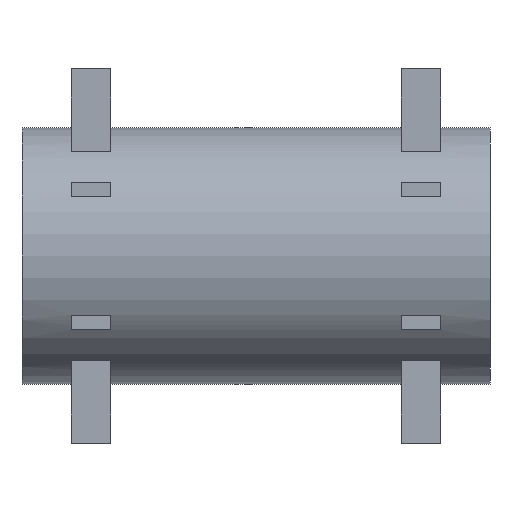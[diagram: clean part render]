
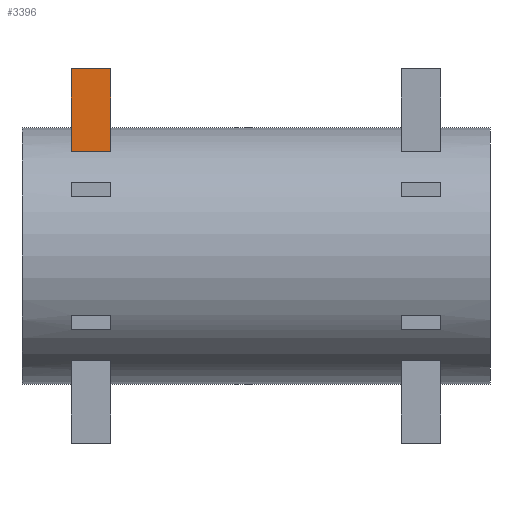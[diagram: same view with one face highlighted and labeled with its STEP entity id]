
A CAD part, front view. The second image highlights one B-rep face of the part: STEP entity #3396.
In plain terms, the highlighted planar face has unit normal (0, -1, 0).
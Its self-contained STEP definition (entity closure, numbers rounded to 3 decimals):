
#31 = CYLINDRICAL_SURFACE('',#32,26.);
#32 = AXIS2_PLACEMENT_3D('',#33,#34,#35);
#33 = CARTESIAN_POINT('',(295.,0.,0.));
#34 = DIRECTION('',(1.,0.,0.));
#35 = DIRECTION('',(-0.,0.,1.));
#111 = VERTEX_POINT('',#112);
#112 = CARTESIAN_POINT('',(305.,-15.,21.237));
#127 = PLANE('',#128);
#128 = AXIS2_PLACEMENT_3D('',#129,#130,#131);
#129 = CARTESIAN_POINT('',(305.,-15.,20.));
#130 = DIRECTION('',(1.,0.,0.));
#131 = DIRECTION('',(0.,0.,1.));
#168 = VERTEX_POINT('',#169);
#169 = CARTESIAN_POINT('',(313.,-15.,21.237));
#184 = PLANE('',#185);
#185 = AXIS2_PLACEMENT_3D('',#186,#187,#188);
#186 = CARTESIAN_POINT('',(313.,-15.,20.));
#187 = DIRECTION('',(1.,0.,0.));
#188 = DIRECTION('',(0.,0.,1.));
#196 = EDGE_CURVE('',#111,#168,#197,.T.);
#197 = SURFACE_CURVE('',#198,(#202,#209),.PCURVE_S1.);
#198 = LINE('',#199,#200);
#199 = CARTESIAN_POINT('',(295.,-15.,21.237));
#200 = VECTOR('',#201,1.);
#201 = DIRECTION('',(1.,0.,0.));
#202 = PCURVE('',#31,#203);
#203 = DEFINITIONAL_REPRESENTATION('',(#204),#208);
#204 = LINE('',#205,#206);
#205 = CARTESIAN_POINT('',(0.615,0.));
#206 = VECTOR('',#207,1.);
#207 = DIRECTION('',(0.,1.));
#208 = ( GEOMETRIC_REPRESENTATION_CONTEXT(2) 
PARAMETRIC_REPRESENTATION_CONTEXT() REPRESENTATION_CONTEXT('2D SPACE',''
  ) );
#209 = PCURVE('',#210,#215);
#210 = PLANE('',#211);
#211 = AXIS2_PLACEMENT_3D('',#212,#213,#214);
#212 = CARTESIAN_POINT('',(305.,-15.,20.));
#213 = DIRECTION('',(0.,1.,0.));
#214 = DIRECTION('',(0.,0.,1.));
#215 = DEFINITIONAL_REPRESENTATION('',(#216),#220);
#216 = LINE('',#217,#218);
#217 = CARTESIAN_POINT('',(1.237,-10.));
#218 = VECTOR('',#219,1.);
#219 = DIRECTION('',(0.,1.));
#220 = ( GEOMETRIC_REPRESENTATION_CONTEXT(2) 
PARAMETRIC_REPRESENTATION_CONTEXT() REPRESENTATION_CONTEXT('2D SPACE',''
  ) );
#3275 = EDGE_CURVE('',#111,#3276,#3278,.T.);
#3276 = VERTEX_POINT('',#3277);
#3277 = CARTESIAN_POINT('',(305.,-15.,38.));
#3278 = SURFACE_CURVE('',#3279,(#3283,#3290),.PCURVE_S1.);
#3279 = LINE('',#3280,#3281);
#3280 = CARTESIAN_POINT('',(305.,-15.,20.));
#3281 = VECTOR('',#3282,1.);
#3282 = DIRECTION('',(0.,0.,1.));
#3283 = PCURVE('',#127,#3284);
#3284 = DEFINITIONAL_REPRESENTATION('',(#3285),#3289);
#3285 = LINE('',#3286,#3287);
#3286 = CARTESIAN_POINT('',(0.,0.));
#3287 = VECTOR('',#3288,1.);
#3288 = DIRECTION('',(1.,0.));
#3289 = ( GEOMETRIC_REPRESENTATION_CONTEXT(2) 
PARAMETRIC_REPRESENTATION_CONTEXT() REPRESENTATION_CONTEXT('2D SPACE',''
  ) );
#3290 = PCURVE('',#210,#3291);
#3291 = DEFINITIONAL_REPRESENTATION('',(#3292),#3296);
#3292 = LINE('',#3293,#3294);
#3293 = CARTESIAN_POINT('',(0.,0.));
#3294 = VECTOR('',#3295,1.);
#3295 = DIRECTION('',(1.,0.));
#3296 = ( GEOMETRIC_REPRESENTATION_CONTEXT(2) 
PARAMETRIC_REPRESENTATION_CONTEXT() REPRESENTATION_CONTEXT('2D SPACE',''
  ) );
#3336 = PLANE('',#3337);
#3337 = AXIS2_PLACEMENT_3D('',#3338,#3339,#3340);
#3338 = CARTESIAN_POINT('',(305.,-15.,38.));
#3339 = DIRECTION('',(0.,0.,1.));
#3340 = DIRECTION('',(1.,0.,0.));
#3396 = ADVANCED_FACE('',(#3397),#210,.F.);
#3397 = FACE_BOUND('',#3398,.F.);
#3398 = EDGE_LOOP('',(#3399,#3422,#3423,#3424));
#3399 = ORIENTED_EDGE('',*,*,#3400,.F.);
#3400 = EDGE_CURVE('',#168,#3401,#3403,.T.);
#3401 = VERTEX_POINT('',#3402);
#3402 = CARTESIAN_POINT('',(313.,-15.,38.));
#3403 = SURFACE_CURVE('',#3404,(#3408,#3415),.PCURVE_S1.);
#3404 = LINE('',#3405,#3406);
#3405 = CARTESIAN_POINT('',(313.,-15.,20.));
#3406 = VECTOR('',#3407,1.);
#3407 = DIRECTION('',(0.,0.,1.));
#3408 = PCURVE('',#210,#3409);
#3409 = DEFINITIONAL_REPRESENTATION('',(#3410),#3414);
#3410 = LINE('',#3411,#3412);
#3411 = CARTESIAN_POINT('',(0.,8.));
#3412 = VECTOR('',#3413,1.);
#3413 = DIRECTION('',(1.,0.));
#3414 = ( GEOMETRIC_REPRESENTATION_CONTEXT(2) 
PARAMETRIC_REPRESENTATION_CONTEXT() REPRESENTATION_CONTEXT('2D SPACE',''
  ) );
#3415 = PCURVE('',#184,#3416);
#3416 = DEFINITIONAL_REPRESENTATION('',(#3417),#3421);
#3417 = LINE('',#3418,#3419);
#3418 = CARTESIAN_POINT('',(0.,0.));
#3419 = VECTOR('',#3420,1.);
#3420 = DIRECTION('',(1.,0.));
#3421 = ( GEOMETRIC_REPRESENTATION_CONTEXT(2) 
PARAMETRIC_REPRESENTATION_CONTEXT() REPRESENTATION_CONTEXT('2D SPACE',''
  ) );
#3422 = ORIENTED_EDGE('',*,*,#196,.F.);
#3423 = ORIENTED_EDGE('',*,*,#3275,.T.);
#3424 = ORIENTED_EDGE('',*,*,#3425,.T.);
#3425 = EDGE_CURVE('',#3276,#3401,#3426,.T.);
#3426 = SURFACE_CURVE('',#3427,(#3431,#3438),.PCURVE_S1.);
#3427 = LINE('',#3428,#3429);
#3428 = CARTESIAN_POINT('',(305.,-15.,38.));
#3429 = VECTOR('',#3430,1.);
#3430 = DIRECTION('',(1.,0.,0.));
#3431 = PCURVE('',#210,#3432);
#3432 = DEFINITIONAL_REPRESENTATION('',(#3433),#3437);
#3433 = LINE('',#3434,#3435);
#3434 = CARTESIAN_POINT('',(18.,0.));
#3435 = VECTOR('',#3436,1.);
#3436 = DIRECTION('',(0.,1.));
#3437 = ( GEOMETRIC_REPRESENTATION_CONTEXT(2) 
PARAMETRIC_REPRESENTATION_CONTEXT() REPRESENTATION_CONTEXT('2D SPACE',''
  ) );
#3438 = PCURVE('',#3336,#3439);
#3439 = DEFINITIONAL_REPRESENTATION('',(#3440),#3444);
#3440 = LINE('',#3441,#3442);
#3441 = CARTESIAN_POINT('',(0.,0.));
#3442 = VECTOR('',#3443,1.);
#3443 = DIRECTION('',(1.,0.));
#3444 = ( GEOMETRIC_REPRESENTATION_CONTEXT(2) 
PARAMETRIC_REPRESENTATION_CONTEXT() REPRESENTATION_CONTEXT('2D SPACE',''
  ) );
